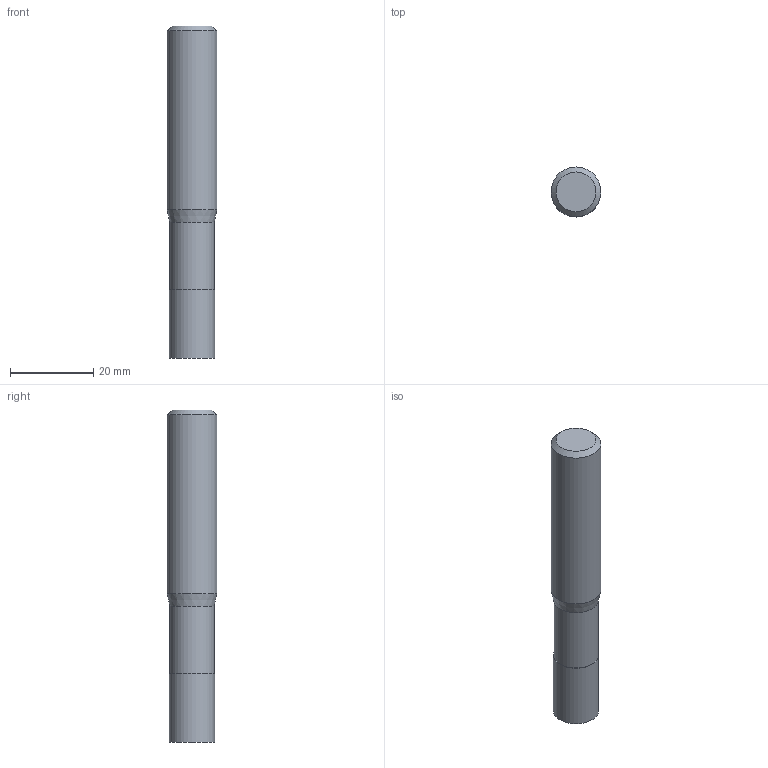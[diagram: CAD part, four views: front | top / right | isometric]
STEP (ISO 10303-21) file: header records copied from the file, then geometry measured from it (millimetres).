
FILE_DESCRIPTION((''),'2;1');
FILE_NAME('C:\Users\nsx150\AppData\Local\Temp\Mastercam 2021\EUJSUNXURU\TEMP.step','2021-04-22T10:30:11',(''),(''),'STEP Write','Mastercam 2021 ... CNC Software, Inc.','');
FILE_SCHEMA(('AUTOMOTIVE_DESIGN'));
Length unit declared in the file: millimetre
Products named in the file (1): None
Bounding box: 12 x 12 x 80 mm (x, y, z)
Volume: 8284.1 mm3; surface area: 3250.1 mm2
Topology: 2 solids, 2 shells, 9 faces, 12 edges, 7 vertices
Faces by surface type: plane 4, cylinder 3, cone 2
Full cylindrical faces by diameter (mm): 10.7 x1, 10.9 x1, 12 x1
Entity records: 211 total; most frequent: DIRECTION 36, CARTESIAN_POINT 25, AXIS2_PLACEMENT_3D 18, ORIENTED_EDGE 14, EDGE_LOOP 14, STYLED_ITEM 12, ADVANCED_FACE 9, FACE_BOUND 8
